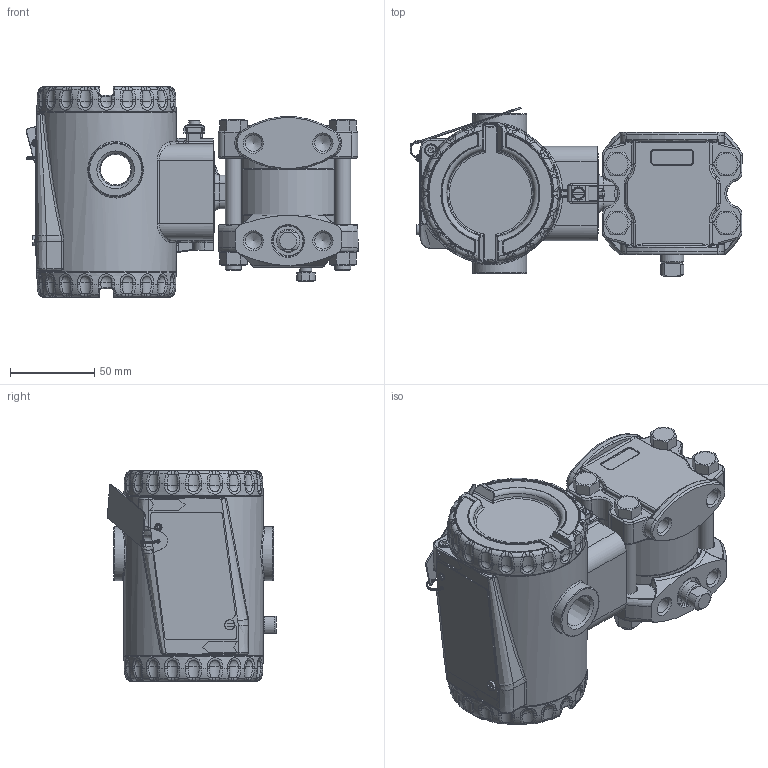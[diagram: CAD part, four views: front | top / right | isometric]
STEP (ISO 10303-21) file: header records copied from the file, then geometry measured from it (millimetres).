
FILE_DESCRIPTION(/* description */ (''),/* implementation_level */ '2;1');
FILE_NAME(/* name */ 'F:\Area\Desenvolvimento_2\Projects\Sensor\projetos\LD400-3d\dimensionais 3D clientes\LD400A5 1-4NPT Monel purga abaixo.stp',/* time_stamp */ '2023-02-02T09:43:29-03:00',/* author */ ('inventor02'),/* organization */ (''),/* preprocessor_version */ 'ST-DEVELOPER v17',/* originating_system */ 'Autodesk Inventor 2019',/* authorisation */ '');
FILE_SCHEMA (('CONFIG_CONTROL_DESIGN'));
Products named in the file (30): LD400A5 1-4NPT Monel purga abaixo; Carcaça 400 com tampas e plaqueta sem letras; 101-D-0845-05 carcaça LD400 sem letras; 101-B-3614-03-tampa 400 sem letras; Tampa visor 400 montada sem letras; 101-B-3612-05 tampa visor 400 sem letras; 101-A-6107; oring 2034; 00034775-0; WHW_250; DIN 915 - M6 x 10; Chapa aterramento externo; 201-A-1771-02 inserto terra recartilhado; AS 1969 - ST4,2; ISO 1207 - M4 x 8; ANSI B18.3.1M - M4x0,7 x 8; Subconjunto plaqueta 400; plaqueta 400 em branco; Parafuso da Plaqueta; Rebite da Plaqueta; 096-A-0169-03; 101-A-0502-01; manométrico FX5 monel purga abaixo; involucro fx5 apos a usinagem final; 081-C-0500-10 monel barra 7-16 purga M8; 096-C-0014-13 manom reforçado; bujao 1-4NPT; Sangria; Paraf. 3-8 x 16 UNC; Porca 3-8 x 16 UNC
Assembly tree (36 placements, depth 4):
  LD400A5 1-4NPT Monel purga abaixo
    Carcaça 400 com tampas e plaqueta sem letras
      101-D-0845-05 carcaça LD400 sem letras
      101-B-3614-03-tampa 400 sem letras
      Tampa visor 400 montada sem letras
        101-B-3612-05 tampa visor 400 sem letras
        101-A-6107
        oring 2034
        00034775-0
        WHW_250
      DIN 915 - M6 x 10
      Chapa aterramento externo
      201-A-1771-02 inserto terra recartilhado
      AS 1969 - ST4,2
      ISO 1207 - M4 x 8
      ANSI B18.3.1M - M4x0,7 x 8  x2
      Subconjunto plaqueta 400
        plaqueta 400 em branco
        Parafuso da Plaqueta
        Rebite da Plaqueta
        096-A-0169-03
        101-A-0502-01
    manométrico FX5 monel purga abaixo
      involucro fx5 apos a usinagem final
      081-C-0500-10 monel barra 7-16 purga M8
      096-C-0014-13 manom reforçado
      bujao 1-4NPT
      Sangria
      Paraf. 3-8 x 16 UNC  x4
      Porca 3-8 x 16 UNC  x4
Bounding box: 197.25 x 100.39 x 125 mm (x, y, z)
Volume: 642171.3 mm3; surface area: 236279.5 mm2
Topology: 32 solids, 32 shells, 2356 faces, 5790 edges, 3490 vertices
Faces by surface type: plane 617, cylinder 555, bspline 526, torus 397, cone 204, sphere 57
Full cylindrical faces by diameter (mm): 2 x2, 2.1 x1, 2.2 x1, 2.459 x3, 2.7 x1, 3 x3, 3.242 x3, 3.571 x1, 4 x4, 4.3 x2, 4.4 x1, 4.917 x1, 5 x2, 5.5 x1, 6 x2, 6.1 x2, 6.2 x1, 6.647 x1, 7 x3, 7.6 x2, 7.798 x4, 8 x1, 9.525 x4, 9.728 x8, 10.5 x8, 10.719 x2, 12 x1, 13.8 x1, 14 x1, 18.3 x2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
Entity records: 87180 total; most frequent: CARTESIAN_POINT 34544, ORIENTED_EDGE 11050, DIRECTION 10615, EDGE_CURVE 5525, AXIS2_PLACEMENT_3D 4496, VERTEX_POINT 3356, CIRCLE 2608, EDGE_LOOP 2369
